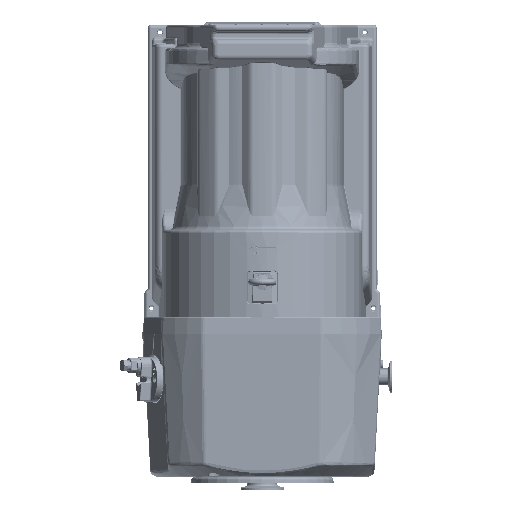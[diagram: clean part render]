
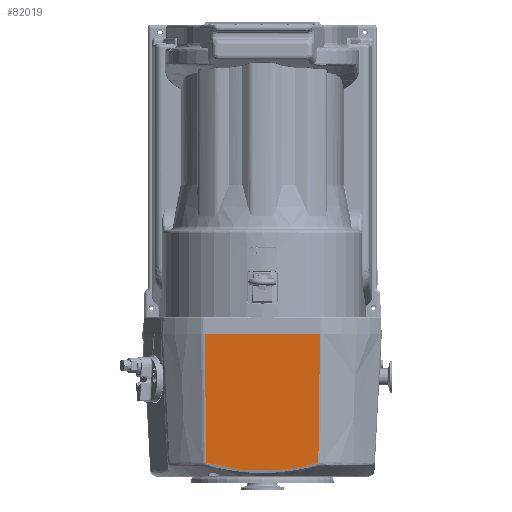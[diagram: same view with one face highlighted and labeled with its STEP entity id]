
A CAD part, top view. The second image highlights one B-rep face of the part: STEP entity #82019.
In plain terms, the highlighted planar face has unit normal (0, -0.052, 0.999) as drawn and (0, 0.999, 0.052) by its records, which use the part's own axes.
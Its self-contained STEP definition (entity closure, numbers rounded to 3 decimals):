
#64593=B_SPLINE_CURVE_WITH_KNOTS('',3,(#639200,#639201,#639202,#639203),
 .UNSPECIFIED.,.F.,.F.,(4,4),(0.,1.),.UNSPECIFIED.);
#64595=B_SPLINE_CURVE_WITH_KNOTS('',3,(#639221,#639222,#639223,#639224),
 .UNSPECIFIED.,.F.,.F.,(4,4),(0.,1.),.UNSPECIFIED.);
#64596=B_SPLINE_CURVE_WITH_KNOTS('',3,(#639226,#639227,#639228,#639229,
#639230,#639231,#639232,#639233,#639234,#639235),.UNSPECIFIED.,.F.,.F.,
(4,2,2,2,4),(0.,0.25,0.5,0.75,1.),.UNSPECIFIED.);
#82019=ADVANCED_FACE('',(#107095),#92779,.T.);
#92779=PLANE('',#367093);
#107095=FACE_OUTER_BOUND('',#127047,.T.);
#127047=EDGE_LOOP('',(#226235,#226236,#226237,#226238));
#147655=LINE('',#635555,#163939);
#163939=VECTOR('',#430216,1.);
#226235=ORIENTED_EDGE('',*,*,#323117,.T.);
#226236=ORIENTED_EDGE('',*,*,#323118,.T.);
#226237=ORIENTED_EDGE('',*,*,#323115,.T.);
#226238=ORIENTED_EDGE('',*,*,#322665,.F.);
#282047=VERTEX_POINT('',#635554);
#282048=VERTEX_POINT('',#635556);
#282384=VERTEX_POINT('',#639204);
#282385=VERTEX_POINT('',#639225);
#322665=EDGE_CURVE('',#282047,#282048,#147655,.T.);
#323115=EDGE_CURVE('',#282384,#282048,#64593,.T.);
#323117=EDGE_CURVE('',#282047,#282385,#64595,.T.);
#323118=EDGE_CURVE('',#282385,#282384,#64596,.T.);
#367093=AXIS2_PLACEMENT_3D('',#639236,#430784,#430785);
#430216=DIRECTION('',(1.,0.,0.));
#430784=DIRECTION('',(0.,0.999,0.052));
#430785=DIRECTION('',(0.,0.052,-0.999));
#635554=CARTESIAN_POINT('',(-74.847,162.144,1.624));
#635555=CARTESIAN_POINT('',(-77.978,162.144,1.624));
#635556=CARTESIAN_POINT('',(71.652,162.144,1.624));
#639200=CARTESIAN_POINT('',(69.538,153.585,164.936));
#639201=CARTESIAN_POINT('',(70.253,156.438,110.499));
#639202=CARTESIAN_POINT('',(70.957,159.291,56.062));
#639203=CARTESIAN_POINT('',(71.652,162.144,1.624));
#639204=CARTESIAN_POINT('',(69.538,153.585,164.936));
#639221=CARTESIAN_POINT('',(-74.847,162.144,1.624));
#639222=CARTESIAN_POINT('',(-74.152,159.291,56.062));
#639223=CARTESIAN_POINT('',(-73.448,156.438,110.499));
#639224=CARTESIAN_POINT('',(-72.733,153.585,164.936));
#639225=CARTESIAN_POINT('',(-72.733,153.585,164.936));
#639226=CARTESIAN_POINT('',(-72.733,153.585,164.936));
#639227=CARTESIAN_POINT('',(-61.093,153.418,168.115));
#639228=CARTESIAN_POINT('',(-49.296,153.281,170.727));
#639229=CARTESIAN_POINT('',(-25.64,153.094,174.297));
#639230=CARTESIAN_POINT('',(-13.749,153.044,175.257));
#639231=CARTESIAN_POINT('',(10.181,153.043,175.277));
#639232=CARTESIAN_POINT('',(22.29,153.093,174.317));
#639233=CARTESIAN_POINT('',(46.12,153.281,170.727));
#639234=CARTESIAN_POINT('',(57.882,153.418,168.119));
#639235=CARTESIAN_POINT('',(69.538,153.585,164.936));
#639236=CARTESIAN_POINT('',(78.744,152.724,181.362));
